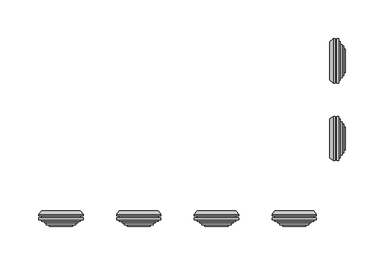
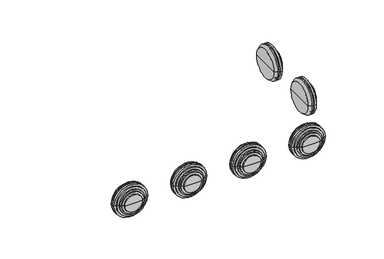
"""IFC4 building model written with IfcOpenShell, lengths in millimetres: cable carrier fitting geometry, КНС_КоробкаОтветвительнаяСКабельнымиВводами_12_IP55_DKC : с 12 кабельными вводами д.40мм, IP55, 380х300х120мм."""

from ifc_helpers import new_model, si_unit, frame, origin, place, context, project, spatial, polyline, circle_curve, source, transform, mapped, element, save
from ifc_brep_helpers import plane_surface, cylinder_surface, revolved_surface, advanced_brep


def cable_carrier_fitting_e0d42a9d(model_context):
    return source(origin(), model_context, "Body", "AdvancedBrep", [
        advanced_brep(
        [(202.5, 75.0, 57.0), (202.5, 25.0, 57.0), (202.5, 21.5, 57.0), (202.5, 78.5, 57.0), (204.5, 75.0, 57.0), (204.5, 25.0, 57.0), (204.5, 78.5, 57.0), (204.5, 21.5, 57.0), (207.5, 78.5, 57.0), (207.5, 21.5, 57.0), (207.5, 75.0, 57.0), (207.5, 25.0, 57.0), (209.5, 75.0, 57.0), (209.5, 25.0, 57.0), (209.5, 71.25, 57.0), (209.5, 28.75, 57.0), (211.5, 71.25, 57.0), (211.5, 28.75, 57.0), (211.5, 68.75, 57.0), (211.5, 31.25, 57.0), (213.5, 68.75, 57.0), (213.5, 31.25, 57.0), (213.5, 65.0, 57.0), (213.5, 35.0, 57.0), (215.5, 65.0, 57.0), (215.5, 35.0, 57.0), (215.5, 50.0, 57.0), (195.5, 75.0, 57.0), (195.5, 25.0, 57.0), (195.5, 50.0, 57.0), (200.2491137, 78.5, 57.0), (200.2491137, 21.5, 57.0)],
        [
            (0, 1, circle_curve(frame((202.5, 50.0, 57.0), z_axis=(-1.0, 0.0, 0.0), x_axis=(0.0, -1.0, 0.0)), 25.0)),
            (1, 2),
            (2, 3, circle_curve(frame((202.5, 50.0, 57.0), z_axis=(1.0, 0.0, 0.0), x_axis=(0.0, -1.0, 0.0)), 28.5)),
            (3, 0),
            (1, 0, circle_curve(frame((202.5, 50.0, 57.0), z_axis=(-1.0, 0.0, 0.0), x_axis=(0.0, -1.0, 0.0)), 25.0)),
            (3, 2, circle_curve(frame((202.5, 50.0, 57.0), z_axis=(1.0, 0.0, 0.0), x_axis=(0.0, -1.0, 0.0)), 28.5)),
            (4, 5, circle_curve(frame((204.5, 50.0, 57.0), z_axis=(-1.0, 0.0, 0.0), x_axis=(0.0, -1.0, 0.0)), 25.0)),
            (5, 1),
            (0, 4),
            (5, 4, circle_curve(frame((204.5, 50.0, 57.0), z_axis=(-1.0, 0.0, 0.0), x_axis=(0.0, -1.0, 0.0)), 25.0)),
            (6, 7, circle_curve(frame((204.5, 50.0, 57.0), z_axis=(-1.0, 0.0, 0.0), x_axis=(0.0, -1.0, 0.0)), 28.5)),
            (7, 5),
            (4, 6),
            (7, 6, circle_curve(frame((204.5, 50.0, 57.0), z_axis=(-1.0, 0.0, 0.0), x_axis=(0.0, -1.0, 0.0)), 28.5)),
            (8, 9, circle_curve(frame((207.5, 50.0, 57.0), z_axis=(-1.0, 0.0, 0.0), x_axis=(0.0, -1.0, 0.0)), 28.5)),
            (9, 7),
            (6, 8),
            (9, 8, circle_curve(frame((207.5, 50.0, 57.0), z_axis=(-1.0, 0.0, 0.0), x_axis=(0.0, -1.0, 0.0)), 28.5)),
            (10, 11, circle_curve(frame((207.5, 50.0, 57.0), z_axis=(-1.0, 0.0, 0.0), x_axis=(0.0, -1.0, 0.0)), 25.0)),
            (11, 9),
            (8, 10),
            (11, 10, circle_curve(frame((207.5, 50.0, 57.0), z_axis=(-1.0, 0.0, 0.0), x_axis=(0.0, -1.0, 0.0)), 25.0)),
            (12, 13, circle_curve(frame((209.5, 50.0, 57.0), z_axis=(-1.0, 0.0, 0.0), x_axis=(0.0, -1.0, 0.0)), 25.0)),
            (13, 11),
            (10, 12),
            (13, 12, circle_curve(frame((209.5, 50.0, 57.0), z_axis=(-1.0, 0.0, 0.0), x_axis=(0.0, -1.0, 0.0)), 25.0)),
            (14, 15, circle_curve(frame((209.5, 50.0, 57.0), z_axis=(-1.0, 0.0, 0.0), x_axis=(0.0, -1.0, 0.0)), 21.25)),
            (15, 13),
            (12, 14),
            (15, 14, circle_curve(frame((209.5, 50.0, 57.0), z_axis=(-1.0, 0.0, 0.0), x_axis=(0.0, -1.0, 0.0)), 21.25)),
            (16, 17, circle_curve(frame((211.5, 50.0, 57.0), z_axis=(-1.0, 0.0, 0.0), x_axis=(0.0, -1.0, 0.0)), 21.25)),
            (17, 15),
            (14, 16),
            (17, 16, circle_curve(frame((211.5, 50.0, 57.0), z_axis=(-1.0, 0.0, 0.0), x_axis=(0.0, -1.0, 0.0)), 21.25)),
            (18, 19, circle_curve(frame((211.5, 50.0, 57.0), z_axis=(-1.0, 0.0, 0.0), x_axis=(0.0, -1.0, 0.0)), 18.75)),
            (19, 17),
            (16, 18),
            (19, 18, circle_curve(frame((211.5, 50.0, 57.0), z_axis=(-1.0, 0.0, 0.0), x_axis=(0.0, -1.0, 0.0)), 18.75)),
            (20, 21, circle_curve(frame((213.5, 50.0, 57.0), z_axis=(-1.0, 0.0, 0.0), x_axis=(0.0, -1.0, 0.0)), 18.75)),
            (21, 19),
            (18, 20),
            (21, 20, circle_curve(frame((213.5, 50.0, 57.0), z_axis=(-1.0, 0.0, 0.0), x_axis=(0.0, -1.0, 0.0)), 18.75)),
            (22, 23, circle_curve(frame((213.5, 50.0, 57.0), z_axis=(-1.0, 0.0, 0.0), x_axis=(0.0, -1.0, 0.0)), 15.0)),
            (23, 21),
            (20, 22),
            (23, 22, circle_curve(frame((213.5, 50.0, 57.0), z_axis=(-1.0, 0.0, 0.0), x_axis=(0.0, -1.0, 0.0)), 15.0)),
            (24, 25, circle_curve(frame((215.5, 50.0, 57.0), z_axis=(-1.0, 0.0, 0.0), x_axis=(0.0, -1.0, 0.0)), 15.0)),
            (25, 23),
            (22, 24),
            (25, 24, circle_curve(frame((215.5, 50.0, 57.0), z_axis=(-1.0, 0.0, 0.0), x_axis=(0.0, -1.0, 0.0)), 15.0)),
            (26, 25),
            (24, 26),
            (27, 28, circle_curve(frame((195.5, 50.0, 57.0), z_axis=(-1.0, 0.0, 0.0), x_axis=(0.0, -1.0, 0.0)), 25.0)),
            (28, 29),
            (29, 27),
            (28, 27, circle_curve(frame((195.5, 50.0, 57.0), z_axis=(-1.0, 0.0, 0.0), x_axis=(0.0, -1.0, 0.0)), 25.0)),
            (30, 31, circle_curve(frame((200.2491137, 50.0, 57.0), z_axis=(-1.0, 0.0, 0.0), x_axis=(0.0, -1.0, 0.0)), 28.5)),
            (31, 28),
            (27, 30),
            (31, 30, circle_curve(frame((200.2491137, 50.0, 57.0), z_axis=(-1.0, 0.0, 0.0), x_axis=(0.0, -1.0, 0.0)), 28.5)),
            (2, 31),
            (30, 3),
        ],
        [
            plane_surface(frame((202.5, 50.0, 57.0), z_axis=(1.0, 0.0, 0.0), x_axis=(0.0, -1.0, 0.0))),
            cylinder_surface(frame((-1310.5, 50.0, 57.0), z_axis=(1.0, 0.0, 0.0), x_axis=(0.0, -1.0, 0.0)), 25.0),
            plane_surface(frame((204.5, 50.0, 57.0), z_axis=(-1.0, 0.0, 0.0), x_axis=(0.0, -1.0, 0.0))),
            cylinder_surface(frame((-1310.5, 50.0, 57.0), z_axis=(1.0, 0.0, 0.0), x_axis=(0.0, -1.0, 0.0)), 28.5),
            plane_surface(frame((207.5, 50.0, 57.0), z_axis=(1.0, 0.0, 0.0), x_axis=(0.0, -1.0, 0.0))),
            plane_surface(frame((209.5, 50.0, 57.0), z_axis=(1.0, 0.0, 0.0), x_axis=(0.0, -1.0, 0.0))),
            cylinder_surface(frame((-1310.5, 50.0, 57.0), z_axis=(1.0, 0.0, 0.0), x_axis=(0.0, -1.0, 0.0)), 21.25),
            plane_surface(frame((211.5, 50.0, 57.0), z_axis=(1.0, 0.0, 0.0), x_axis=(0.0, -1.0, 0.0))),
            cylinder_surface(frame((-1310.5, 50.0, 57.0), z_axis=(1.0, 0.0, 0.0), x_axis=(0.0, -1.0, 0.0)), 18.75),
            plane_surface(frame((213.5, 50.0, 57.0), z_axis=(1.0, 0.0, 0.0), x_axis=(0.0, -1.0, 0.0))),
            cylinder_surface(frame((-1310.5, 50.0, 57.0), z_axis=(1.0, 0.0, 0.0), x_axis=(0.0, -1.0, 0.0)), 15.0),
            plane_surface(frame((215.5, 50.0, 57.0), z_axis=(1.0, 0.0, 0.0), x_axis=(0.0, -1.0, 0.0))),
            plane_surface(frame((195.5, 50.0, 57.0), z_axis=(-1.0, 0.0, 0.0), x_axis=(0.0, -1.0, 0.0))),
            revolved_surface(polyline([(195.5, 25.0, 57.0), (200.2491137, 21.5, 57.0)]), (-1310.5, 50.0, 57.0), (1.0, 0.0, 0.0)),
        ],
        [
            (0, [[1, 2, 3, 4]]),
            (0, [[5, -4, 6, -2]]),
            (1, [[7, 8, -1, 9]]),
            (1, [[10, -9, -5, -8]]),
            (2, [[11, 12, -7, 13]]),
            (2, [[14, -13, -10, -12]]),
            (3, [[15, 16, -11, 17]]),
            (3, [[18, -17, -14, -16]]),
            (4, [[19, 20, -15, 21]]),
            (4, [[22, -21, -18, -20]]),
            (1, [[23, 24, -19, 25]]),
            (1, [[26, -25, -22, -24]]),
            (5, [[27, 28, -23, 29]]),
            (5, [[30, -29, -26, -28]]),
            (6, [[31, 32, -27, 33]]),
            (6, [[34, -33, -30, -32]]),
            (7, [[35, 36, -31, 37]]),
            (7, [[38, -37, -34, -36]]),
            (8, [[39, 40, -35, 41]]),
            (8, [[42, -41, -38, -40]]),
            (9, [[43, 44, -39, 45]]),
            (9, [[46, -45, -42, -44]]),
            (10, [[47, 48, -43, 49]]),
            (10, [[50, -49, -46, -48]]),
            (11, [[51, -47, 52]]),
            (11, [[-52, -50, -51]]),
            (12, [[53, 54, 55]]),
            (12, [[56, -55, -54]]),
            (13, [[57, 58, -53, 59]]),
            (13, [[60, -59, -56, -58]]),
            (3, [[-3, 61, -57, 62]]),
            (3, [[-6, -62, -60, -61]]),
        ],
    ),
        advanced_brep(
        [(202.5, -25.0, 57.0), (202.5, -75.0, 57.0), (202.5, -78.5, 57.0), (202.5, -21.5, 57.0), (204.5, -25.0, 57.0), (204.5, -75.0, 57.0), (204.5, -21.5, 57.0), (204.5, -78.5, 57.0), (207.5, -21.5, 57.0), (207.5, -78.5, 57.0), (207.5, -25.0, 57.0), (207.5, -75.0, 57.0), (209.5, -25.0, 57.0), (209.5, -75.0, 57.0), (209.5, -28.75, 57.0), (209.5, -71.25, 57.0), (211.5, -28.75, 57.0), (211.5, -71.25, 57.0), (211.5, -31.25, 57.0), (211.5, -68.75, 57.0), (213.5, -31.25, 57.0), (213.5, -68.75, 57.0), (213.5, -35.0, 57.0), (213.5, -65.0, 57.0), (215.5, -35.0, 57.0), (215.5, -65.0, 57.0), (215.5, -50.0, 57.0), (195.5, -25.0, 57.0), (195.5, -75.0, 57.0), (195.5, -50.0, 57.0), (200.2491137, -21.5, 57.0), (200.2491137, -78.5, 57.0)],
        [
            (0, 1, circle_curve(frame((202.5, -50.0, 57.0), z_axis=(-1.0, 0.0, 0.0), x_axis=(0.0, -1.0000000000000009, 0.0)), 25.0)),
            (1, 2),
            (2, 3, circle_curve(frame((202.5, -50.0, 57.0), z_axis=(1.0, 0.0, 0.0), x_axis=(0.0, -1.0000000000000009, 0.0)), 28.5)),
            (3, 0),
            (1, 0, circle_curve(frame((202.5, -50.0, 57.0), z_axis=(-1.0, 0.0, 0.0), x_axis=(0.0, -1.0000000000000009, 0.0)), 25.0)),
            (3, 2, circle_curve(frame((202.5, -50.0, 57.0), z_axis=(1.0, 0.0, 0.0), x_axis=(0.0, -1.0000000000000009, 0.0)), 28.5)),
            (4, 5, circle_curve(frame((204.5, -50.0, 57.0), z_axis=(-1.0, 0.0, 0.0), x_axis=(0.0, -1.0000000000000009, 0.0)), 25.0)),
            (5, 1),
            (0, 4),
            (5, 4, circle_curve(frame((204.5, -50.0, 57.0), z_axis=(-1.0, 0.0, 0.0), x_axis=(0.0, -1.0000000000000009, 0.0)), 25.0)),
            (6, 7, circle_curve(frame((204.5, -50.0, 57.0), z_axis=(-1.0, 0.0, 0.0), x_axis=(0.0, -1.0000000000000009, 0.0)), 28.5)),
            (7, 5),
            (4, 6),
            (7, 6, circle_curve(frame((204.5, -50.0, 57.0), z_axis=(-1.0, 0.0, 0.0), x_axis=(0.0, -1.0000000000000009, 0.0)), 28.5)),
            (8, 9, circle_curve(frame((207.5, -50.0, 57.0), z_axis=(-1.0, 0.0, 0.0), x_axis=(0.0, -1.0000000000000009, 0.0)), 28.5)),
            (9, 7),
            (6, 8),
            (9, 8, circle_curve(frame((207.5, -50.0, 57.0), z_axis=(-1.0, 0.0, 0.0), x_axis=(0.0, -1.0000000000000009, 0.0)), 28.5)),
            (10, 11, circle_curve(frame((207.5, -50.0, 57.0), z_axis=(-1.0, 0.0, 0.0), x_axis=(0.0, -1.0000000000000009, 0.0)), 25.0)),
            (11, 9),
            (8, 10),
            (11, 10, circle_curve(frame((207.5, -50.0, 57.0), z_axis=(-1.0, 0.0, 0.0), x_axis=(0.0, -1.0000000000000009, 0.0)), 25.0)),
            (12, 13, circle_curve(frame((209.5, -50.0, 57.0), z_axis=(-1.0, 0.0, 0.0), x_axis=(0.0, -1.0000000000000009, 0.0)), 25.0)),
            (13, 11),
            (10, 12),
            (13, 12, circle_curve(frame((209.5, -50.0, 57.0), z_axis=(-1.0, 0.0, 0.0), x_axis=(0.0, -1.0000000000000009, 0.0)), 25.0)),
            (14, 15, circle_curve(frame((209.5, -50.0, 57.0), z_axis=(-1.0, 0.0, 0.0), x_axis=(0.0, -1.0000000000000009, 0.0)), 21.25)),
            (15, 13),
            (12, 14),
            (15, 14, circle_curve(frame((209.5, -50.0, 57.0), z_axis=(-1.0, 0.0, 0.0), x_axis=(0.0, -1.0000000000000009, 0.0)), 21.25)),
            (16, 17, circle_curve(frame((211.5, -50.0, 57.0), z_axis=(-1.0, 0.0, 0.0), x_axis=(0.0, -1.0000000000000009, 0.0)), 21.25)),
            (17, 15),
            (14, 16),
            (17, 16, circle_curve(frame((211.5, -50.0, 57.0), z_axis=(-1.0, 0.0, 0.0), x_axis=(0.0, -1.0000000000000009, 0.0)), 21.25)),
            (18, 19, circle_curve(frame((211.5, -50.0, 57.0), z_axis=(-1.0, 0.0, 0.0), x_axis=(0.0, -1.0000000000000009, 0.0)), 18.75)),
            (19, 17),
            (16, 18),
            (19, 18, circle_curve(frame((211.5, -50.0, 57.0), z_axis=(-1.0, 0.0, 0.0), x_axis=(0.0, -1.0000000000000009, 0.0)), 18.75)),
            (20, 21, circle_curve(frame((213.5, -50.0, 57.0), z_axis=(-1.0, 0.0, 0.0), x_axis=(0.0, -1.0000000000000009, 0.0)), 18.75)),
            (21, 19),
            (18, 20),
            (21, 20, circle_curve(frame((213.5, -50.0, 57.0), z_axis=(-1.0, 0.0, 0.0), x_axis=(0.0, -1.0000000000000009, 0.0)), 18.75)),
            (22, 23, circle_curve(frame((213.5, -50.0, 57.0), z_axis=(-1.0, 0.0, 0.0), x_axis=(0.0, -1.0000000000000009, 0.0)), 15.0)),
            (23, 21),
            (20, 22),
            (23, 22, circle_curve(frame((213.5, -50.0, 57.0), z_axis=(-1.0, 0.0, 0.0), x_axis=(0.0, -1.0000000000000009, 0.0)), 15.0)),
            (24, 25, circle_curve(frame((215.5, -50.0, 57.0), z_axis=(-1.0, 0.0, 0.0), x_axis=(0.0, -1.0000000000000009, 0.0)), 15.0)),
            (25, 23),
            (22, 24),
            (25, 24, circle_curve(frame((215.5, -50.0, 57.0), z_axis=(-1.0, 0.0, 0.0), x_axis=(0.0, -1.0000000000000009, 0.0)), 15.0)),
            (26, 25),
            (24, 26),
            (27, 28, circle_curve(frame((195.5, -50.0, 57.0), z_axis=(-1.0, 0.0, 0.0), x_axis=(0.0, -1.0000000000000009, 0.0)), 25.0)),
            (28, 29),
            (29, 27),
            (28, 27, circle_curve(frame((195.5, -50.0, 57.0), z_axis=(-1.0, 0.0, 0.0), x_axis=(0.0, -1.0000000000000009, 0.0)), 25.0)),
            (30, 31, circle_curve(frame((200.2491137, -50.0, 57.0), z_axis=(-1.0, 0.0, 0.0), x_axis=(0.0, -1.0000000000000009, 0.0)), 28.5)),
            (31, 28),
            (27, 30),
            (31, 30, circle_curve(frame((200.2491137, -50.0, 57.0), z_axis=(-1.0, 0.0, 0.0), x_axis=(0.0, -1.0000000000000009, 0.0)), 28.5)),
            (2, 31),
            (30, 3),
        ],
        [
            plane_surface(frame((202.5, -50.0, 57.0), z_axis=(1.0, 0.0, 0.0), x_axis=(0.0, -1.0, 0.0))),
            cylinder_surface(frame((-1310.5, -50.0, 57.0), z_axis=(1.0000000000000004, 0.0, 0.0), x_axis=(0.0, -1.0000000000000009, 0.0)), 25.0),
            plane_surface(frame((204.5, -50.0, 57.0), z_axis=(-1.0, 0.0, 0.0), x_axis=(0.0, -1.0, 0.0))),
            cylinder_surface(frame((-1310.5, -50.0, 57.0), z_axis=(1.0000000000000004, 0.0, 0.0), x_axis=(0.0, -1.0000000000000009, 0.0)), 28.5),
            plane_surface(frame((207.5, -50.0, 57.0), z_axis=(1.0, 0.0, 0.0), x_axis=(0.0, -1.0, 0.0))),
            plane_surface(frame((209.5, -50.0, 57.0), z_axis=(1.0, 0.0, 0.0), x_axis=(0.0, -1.0, 0.0))),
            cylinder_surface(frame((-1310.5, -50.0, 57.0), z_axis=(1.0000000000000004, 0.0, 0.0), x_axis=(0.0, -1.0000000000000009, 0.0)), 21.25),
            plane_surface(frame((211.5, -50.0, 57.0), z_axis=(1.0, 0.0, 0.0), x_axis=(0.0, -1.0, 0.0))),
            cylinder_surface(frame((-1310.5, -50.0, 57.0), z_axis=(1.0000000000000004, 0.0, 0.0), x_axis=(0.0, -1.0000000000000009, 0.0)), 18.75),
            plane_surface(frame((213.5, -50.0, 57.0), z_axis=(1.0, 0.0, 0.0), x_axis=(0.0, -1.0, 0.0))),
            cylinder_surface(frame((-1310.5, -50.0, 57.0), z_axis=(1.0000000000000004, 0.0, 0.0), x_axis=(0.0, -1.0000000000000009, 0.0)), 15.0),
            plane_surface(frame((215.5, -50.0, 57.0), z_axis=(1.0, 0.0, 0.0), x_axis=(0.0, -1.0, 0.0))),
            plane_surface(frame((195.5, -50.0, 57.0), z_axis=(-1.0, 0.0, 0.0), x_axis=(0.0, -1.0, 0.0))),
            revolved_surface(polyline([(195.5, -75.0, 57.0), (200.2491137, -78.5, 57.0)]), (-1310.5, -50.0, 57.0), (1.0000000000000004, 0.0, 0.0)),
        ],
        [
            (0, [[1, 2, 3, 4]]),
            (0, [[5, -4, 6, -2]]),
            (1, [[7, 8, -1, 9]]),
            (1, [[10, -9, -5, -8]]),
            (2, [[11, 12, -7, 13]]),
            (2, [[14, -13, -10, -12]]),
            (3, [[15, 16, -11, 17]]),
            (3, [[18, -17, -14, -16]]),
            (4, [[19, 20, -15, 21]]),
            (4, [[22, -21, -18, -20]]),
            (1, [[23, 24, -19, 25]]),
            (1, [[26, -25, -22, -24]]),
            (5, [[27, 28, -23, 29]]),
            (5, [[30, -29, -26, -28]]),
            (6, [[31, 32, -27, 33]]),
            (6, [[34, -33, -30, -32]]),
            (7, [[35, 36, -31, 37]]),
            (7, [[38, -37, -34, -36]]),
            (8, [[39, 40, -35, 41]]),
            (8, [[42, -41, -38, -40]]),
            (9, [[43, 44, -39, 45]]),
            (9, [[46, -45, -42, -44]]),
            (10, [[47, 48, -43, 49]]),
            (10, [[50, -49, -46, -48]]),
            (11, [[51, -47, 52]]),
            (11, [[-52, -50, -51]]),
            (12, [[53, 54, 55]]),
            (12, [[56, -55, -54]]),
            (13, [[57, 58, -53, 59]]),
            (13, [[60, -59, -56, -58]]),
            (3, [[-3, 61, -57, 62]]),
            (3, [[-6, -62, -60, -61]]),
        ],
    ),
        advanced_brep(
        [(175.0, -150.0, 57.0), (125.0, -150.0, 57.0), (121.5, -150.0, 57.0), (178.5, -150.0, 57.0), (175.0, -152.0, 57.0), (125.0, -152.0, 57.0), (178.5, -152.0, 57.0), (121.5, -152.0, 57.0), (178.5, -155.0, 57.0), (121.5, -155.0, 57.0), (175.0, -155.0, 57.0), (125.0, -155.0, 57.0), (175.0, -157.0, 57.0), (125.0, -157.0, 57.0), (171.25, -157.0, 57.0), (128.75, -157.0, 57.0), (171.25, -159.0, 57.0), (128.75, -159.0, 57.0), (168.75, -159.0, 57.0), (131.25, -159.0, 57.0), (168.75, -161.0, 57.0), (131.25, -161.0, 57.0), (165.0, -161.0, 57.0), (135.0, -161.0, 57.0), (165.0, -163.0, 57.0), (135.0, -163.0, 57.0), (150.0, -163.0, 57.0), (175.0, -143.0, 57.0), (125.0, -143.0, 57.0), (150.0, -143.0, 57.0), (178.5, -147.7491137, 57.0), (121.5, -147.7491137, 57.0)],
        [
            (0, 1, circle_curve(frame((150.0, -150.0, 57.0), z_axis=(0.0, 1.0, 0.0), x_axis=(-1.0000000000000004, 0.0, 0.0)), 25.0)),
            (1, 2),
            (2, 3, circle_curve(frame((150.0, -150.0, 57.0), z_axis=(0.0, -1.0, 0.0), x_axis=(-1.0000000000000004, 0.0, 0.0)), 28.5)),
            (3, 0),
            (1, 0, circle_curve(frame((150.0, -150.0, 57.0), z_axis=(0.0, 1.0, 0.0), x_axis=(-1.0000000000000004, 0.0, 0.0)), 25.0)),
            (3, 2, circle_curve(frame((150.0, -150.0, 57.0), z_axis=(0.0, -1.0, 0.0), x_axis=(-1.0000000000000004, 0.0, 0.0)), 28.5)),
            (4, 5, circle_curve(frame((150.0, -152.0, 57.0), z_axis=(0.0, 1.0, 0.0), x_axis=(-1.0000000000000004, 0.0, 0.0)), 25.0)),
            (5, 1),
            (0, 4),
            (5, 4, circle_curve(frame((150.0, -152.0, 57.0), z_axis=(0.0, 1.0, 0.0), x_axis=(-1.0000000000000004, 0.0, 0.0)), 25.0)),
            (6, 7, circle_curve(frame((150.0, -152.0, 57.0), z_axis=(0.0, 1.0, 0.0), x_axis=(-1.0000000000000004, 0.0, 0.0)), 28.5)),
            (7, 5),
            (4, 6),
            (7, 6, circle_curve(frame((150.0, -152.0, 57.0), z_axis=(0.0, 1.0, 0.0), x_axis=(-1.0000000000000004, 0.0, 0.0)), 28.5)),
            (8, 9, circle_curve(frame((150.0, -155.0, 57.0), z_axis=(0.0, 1.0, 0.0), x_axis=(-1.0000000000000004, 0.0, 0.0)), 28.5)),
            (9, 7),
            (6, 8),
            (9, 8, circle_curve(frame((150.0, -155.0, 57.0), z_axis=(0.0, 1.0, 0.0), x_axis=(-1.0000000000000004, 0.0, 0.0)), 28.5)),
            (10, 11, circle_curve(frame((150.0, -155.0, 57.0), z_axis=(0.0, 1.0, 0.0), x_axis=(-1.0000000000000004, 0.0, 0.0)), 25.0)),
            (11, 9),
            (8, 10),
            (11, 10, circle_curve(frame((150.0, -155.0, 57.0), z_axis=(0.0, 1.0, 0.0), x_axis=(-1.0000000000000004, 0.0, 0.0)), 25.0)),
            (12, 13, circle_curve(frame((150.0, -157.0, 57.0), z_axis=(0.0, 1.0, 0.0), x_axis=(-1.0000000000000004, 0.0, 0.0)), 25.0)),
            (13, 11),
            (10, 12),
            (13, 12, circle_curve(frame((150.0, -157.0, 57.0), z_axis=(0.0, 1.0, 0.0), x_axis=(-1.0000000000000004, 0.0, 0.0)), 25.0)),
            (14, 15, circle_curve(frame((150.0, -157.0, 57.0), z_axis=(0.0, 1.0, 0.0), x_axis=(-1.0000000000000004, 0.0, 0.0)), 21.25)),
            (15, 13),
            (12, 14),
            (15, 14, circle_curve(frame((150.0, -157.0, 57.0), z_axis=(0.0, 1.0, 0.0), x_axis=(-1.0000000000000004, 0.0, 0.0)), 21.25)),
            (16, 17, circle_curve(frame((150.0, -159.0, 57.0), z_axis=(0.0, 1.0, 0.0), x_axis=(-1.0000000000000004, 0.0, 0.0)), 21.25)),
            (17, 15),
            (14, 16),
            (17, 16, circle_curve(frame((150.0, -159.0, 57.0), z_axis=(0.0, 1.0, 0.0), x_axis=(-1.0000000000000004, 0.0, 0.0)), 21.25)),
            (18, 19, circle_curve(frame((150.0, -159.0, 57.0), z_axis=(0.0, 1.0, 0.0), x_axis=(-1.0000000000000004, 0.0, 0.0)), 18.75)),
            (19, 17),
            (16, 18),
            (19, 18, circle_curve(frame((150.0, -159.0, 57.0), z_axis=(0.0, 1.0, 0.0), x_axis=(-1.0000000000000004, 0.0, 0.0)), 18.75)),
            (20, 21, circle_curve(frame((150.0, -161.0, 57.0), z_axis=(0.0, 1.0, 0.0), x_axis=(-1.0000000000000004, 0.0, 0.0)), 18.75)),
            (21, 19),
            (18, 20),
            (21, 20, circle_curve(frame((150.0, -161.0, 57.0), z_axis=(0.0, 1.0, 0.0), x_axis=(-1.0000000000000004, 0.0, 0.0)), 18.75)),
            (22, 23, circle_curve(frame((150.0, -161.0, 57.0), z_axis=(0.0, 1.0, 0.0), x_axis=(-1.0000000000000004, 0.0, 0.0)), 15.0)),
            (23, 21),
            (20, 22),
            (23, 22, circle_curve(frame((150.0, -161.0, 57.0), z_axis=(0.0, 1.0, 0.0), x_axis=(-1.0000000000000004, 0.0, 0.0)), 15.0)),
            (24, 25, circle_curve(frame((150.0, -163.0, 57.0), z_axis=(0.0, 1.0, 0.0), x_axis=(-1.0000000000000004, 0.0, 0.0)), 15.0)),
            (25, 23),
            (22, 24),
            (25, 24, circle_curve(frame((150.0, -163.0, 57.0), z_axis=(0.0, 1.0, 0.0), x_axis=(-1.0000000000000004, 0.0, 0.0)), 15.0)),
            (26, 25),
            (24, 26),
            (27, 28, circle_curve(frame((150.0, -143.0, 57.0), z_axis=(0.0, 1.0, 0.0), x_axis=(-1.0000000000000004, 0.0, 0.0)), 25.0)),
            (28, 29),
            (29, 27),
            (28, 27, circle_curve(frame((150.0, -143.0, 57.0), z_axis=(0.0, 1.0, 0.0), x_axis=(-1.0000000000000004, 0.0, 0.0)), 25.0)),
            (30, 31, circle_curve(frame((150.0, -147.7491137, 57.0), z_axis=(0.0, 1.0, 0.0), x_axis=(-1.0000000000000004, 0.0, 0.0)), 28.5)),
            (31, 28),
            (27, 30),
            (31, 30, circle_curve(frame((150.0, -147.7491137, 57.0), z_axis=(0.0, 1.0, 0.0), x_axis=(-1.0000000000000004, 0.0, 0.0)), 28.5)),
            (2, 31),
            (30, 3),
        ],
        [
            plane_surface(frame((150.0, -150.0, 57.0), z_axis=(0.0, -1.0, 0.0), x_axis=(-1.0, 0.0, 0.0))),
            cylinder_surface(frame((150.0, 1363.0, 57.0), z_axis=(0.0, -1.0000000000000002, 0.0), x_axis=(-1.0000000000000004, 0.0, 0.0)), 25.0),
            plane_surface(frame((150.0, -152.0, 57.0), z_axis=(0.0, 1.0, 0.0), x_axis=(-1.0, 0.0, 0.0))),
            cylinder_surface(frame((150.0, 1363.0, 57.0), z_axis=(0.0, -1.0000000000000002, 0.0), x_axis=(-1.0000000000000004, 0.0, 0.0)), 28.5),
            plane_surface(frame((150.0, -155.0, 57.0), z_axis=(0.0, -1.0, 0.0), x_axis=(-1.0, 0.0, 0.0))),
            plane_surface(frame((150.0, -157.0, 57.0), z_axis=(0.0, -1.0, 0.0), x_axis=(-1.0, 0.0, 0.0))),
            cylinder_surface(frame((150.0, 1363.0, 57.0), z_axis=(0.0, -1.0000000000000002, 0.0), x_axis=(-1.0000000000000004, 0.0, 0.0)), 21.25),
            plane_surface(frame((150.0, -159.0, 57.0), z_axis=(0.0, -1.0, 0.0), x_axis=(-1.0, 0.0, 0.0))),
            cylinder_surface(frame((150.0, 1363.0, 57.0), z_axis=(0.0, -1.0000000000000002, 0.0), x_axis=(-1.0000000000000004, 0.0, 0.0)), 18.75),
            plane_surface(frame((150.0, -161.0, 57.0), z_axis=(0.0, -1.0, 0.0), x_axis=(-1.0, 0.0, 0.0))),
            cylinder_surface(frame((150.0, 1363.0, 57.0), z_axis=(0.0, -1.0000000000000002, 0.0), x_axis=(-1.0000000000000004, 0.0, 0.0)), 15.0),
            plane_surface(frame((150.0, -163.0, 57.0), z_axis=(0.0, -1.0, 0.0), x_axis=(-1.0, 0.0, 0.0))),
            plane_surface(frame((150.0, -143.0, 57.0), z_axis=(0.0, 1.0, 0.0), x_axis=(-1.0, 0.0, 0.0))),
            revolved_surface(polyline([(125.0, -143.0, 57.0), (121.5, -147.7491137, 57.0)]), (150.0, 1363.0, 57.0), (0.0, -1.0000000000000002, 0.0)),
        ],
        [
            (0, [[1, 2, 3, 4]]),
            (0, [[5, -4, 6, -2]]),
            (1, [[7, 8, -1, 9]]),
            (1, [[10, -9, -5, -8]]),
            (2, [[11, 12, -7, 13]]),
            (2, [[14, -13, -10, -12]]),
            (3, [[15, 16, -11, 17]]),
            (3, [[18, -17, -14, -16]]),
            (4, [[19, 20, -15, 21]]),
            (4, [[22, -21, -18, -20]]),
            (1, [[23, 24, -19, 25]]),
            (1, [[26, -25, -22, -24]]),
            (5, [[27, 28, -23, 29]]),
            (5, [[30, -29, -26, -28]]),
            (6, [[31, 32, -27, 33]]),
            (6, [[34, -33, -30, -32]]),
            (7, [[35, 36, -31, 37]]),
            (7, [[38, -37, -34, -36]]),
            (8, [[39, 40, -35, 41]]),
            (8, [[42, -41, -38, -40]]),
            (9, [[43, 44, -39, 45]]),
            (9, [[46, -45, -42, -44]]),
            (10, [[47, 48, -43, 49]]),
            (10, [[50, -49, -46, -48]]),
            (11, [[51, -47, 52]]),
            (11, [[-52, -50, -51]]),
            (12, [[53, 54, 55]]),
            (12, [[56, -55, -54]]),
            (13, [[57, 58, -53, 59]]),
            (13, [[60, -59, -56, -58]]),
            (3, [[-3, 61, -57, 62]]),
            (3, [[-6, -62, -60, -61]]),
        ],
    ),
        advanced_brep(
        [(75.0, -150.0, 57.0), (25.0, -150.0, 57.0), (21.5, -150.0, 57.0), (78.5, -150.0, 57.0), (75.0, -152.0, 57.0), (25.0, -152.0, 57.0), (78.5, -152.0, 57.0), (21.5, -152.0, 57.0), (78.5, -155.0, 57.0), (21.5, -155.0, 57.0), (75.0, -155.0, 57.0), (25.0, -155.0, 57.0), (75.0, -157.0, 57.0), (25.0, -157.0, 57.0), (71.25, -157.0, 57.0), (28.75, -157.0, 57.0), (71.25, -159.0, 57.0), (28.75, -159.0, 57.0), (68.75, -159.0, 57.0), (31.25, -159.0, 57.0), (68.75, -161.0, 57.0), (31.25, -161.0, 57.0), (65.0, -161.0, 57.0), (35.0, -161.0, 57.0), (65.0, -163.0, 57.0), (35.0, -163.0, 57.0), (50.0, -163.0, 57.0), (75.0, -143.0, 57.0), (25.0, -143.0, 57.0), (50.0, -143.0, 57.0), (78.5, -147.7491137, 57.0), (21.5, -147.7491137, 57.0)],
        [
            (0, 1, circle_curve(frame((50.0, -150.0, 57.0), z_axis=(0.0, 1.0, 0.0), x_axis=(-1.0000000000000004, 0.0, 0.0)), 25.0)),
            (1, 2),
            (2, 3, circle_curve(frame((50.0, -150.0, 57.0), z_axis=(0.0, -1.0, 0.0), x_axis=(-1.0000000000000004, 0.0, 0.0)), 28.5)),
            (3, 0),
            (1, 0, circle_curve(frame((50.0, -150.0, 57.0), z_axis=(0.0, 1.0, 0.0), x_axis=(-1.0000000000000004, 0.0, 0.0)), 25.0)),
            (3, 2, circle_curve(frame((50.0, -150.0, 57.0), z_axis=(0.0, -1.0, 0.0), x_axis=(-1.0000000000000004, 0.0, 0.0)), 28.5)),
            (4, 5, circle_curve(frame((50.0, -152.0, 57.0), z_axis=(0.0, 1.0, 0.0), x_axis=(-1.0000000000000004, 0.0, 0.0)), 25.0)),
            (5, 1),
            (0, 4),
            (5, 4, circle_curve(frame((50.0, -152.0, 57.0), z_axis=(0.0, 1.0, 0.0), x_axis=(-1.0000000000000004, 0.0, 0.0)), 25.0)),
            (6, 7, circle_curve(frame((50.0, -152.0, 57.0), z_axis=(0.0, 1.0, 0.0), x_axis=(-1.0000000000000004, 0.0, 0.0)), 28.5)),
            (7, 5),
            (4, 6),
            (7, 6, circle_curve(frame((50.0, -152.0, 57.0), z_axis=(0.0, 1.0, 0.0), x_axis=(-1.0000000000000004, 0.0, 0.0)), 28.5)),
            (8, 9, circle_curve(frame((50.0, -155.0, 57.0), z_axis=(0.0, 1.0, 0.0), x_axis=(-1.0000000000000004, 0.0, 0.0)), 28.5)),
            (9, 7),
            (6, 8),
            (9, 8, circle_curve(frame((50.0, -155.0, 57.0), z_axis=(0.0, 1.0, 0.0), x_axis=(-1.0000000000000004, 0.0, 0.0)), 28.5)),
            (10, 11, circle_curve(frame((50.0, -155.0, 57.0), z_axis=(0.0, 1.0, 0.0), x_axis=(-1.0000000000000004, 0.0, 0.0)), 25.0)),
            (11, 9),
            (8, 10),
            (11, 10, circle_curve(frame((50.0, -155.0, 57.0), z_axis=(0.0, 1.0, 0.0), x_axis=(-1.0000000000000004, 0.0, 0.0)), 25.0)),
            (12, 13, circle_curve(frame((50.0, -157.0, 57.0), z_axis=(0.0, 1.0, 0.0), x_axis=(-1.0000000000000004, 0.0, 0.0)), 25.0)),
            (13, 11),
            (10, 12),
            (13, 12, circle_curve(frame((50.0, -157.0, 57.0), z_axis=(0.0, 1.0, 0.0), x_axis=(-1.0000000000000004, 0.0, 0.0)), 25.0)),
            (14, 15, circle_curve(frame((50.0, -157.0, 57.0), z_axis=(0.0, 1.0, 0.0), x_axis=(-1.0000000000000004, 0.0, 0.0)), 21.25)),
            (15, 13),
            (12, 14),
            (15, 14, circle_curve(frame((50.0, -157.0, 57.0), z_axis=(0.0, 1.0, 0.0), x_axis=(-1.0000000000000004, 0.0, 0.0)), 21.25)),
            (16, 17, circle_curve(frame((50.0, -159.0, 57.0), z_axis=(0.0, 1.0, 0.0), x_axis=(-1.0000000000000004, 0.0, 0.0)), 21.25)),
            (17, 15),
            (14, 16),
            (17, 16, circle_curve(frame((50.0, -159.0, 57.0), z_axis=(0.0, 1.0, 0.0), x_axis=(-1.0000000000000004, 0.0, 0.0)), 21.25)),
            (18, 19, circle_curve(frame((50.0, -159.0, 57.0), z_axis=(0.0, 1.0, 0.0), x_axis=(-1.0000000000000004, 0.0, 0.0)), 18.75)),
            (19, 17),
            (16, 18),
            (19, 18, circle_curve(frame((50.0, -159.0, 57.0), z_axis=(0.0, 1.0, 0.0), x_axis=(-1.0000000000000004, 0.0, 0.0)), 18.75)),
            (20, 21, circle_curve(frame((50.0, -161.0, 57.0), z_axis=(0.0, 1.0, 0.0), x_axis=(-1.0000000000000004, 0.0, 0.0)), 18.75)),
            (21, 19),
            (18, 20),
            (21, 20, circle_curve(frame((50.0, -161.0, 57.0), z_axis=(0.0, 1.0, 0.0), x_axis=(-1.0000000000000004, 0.0, 0.0)), 18.75)),
            (22, 23, circle_curve(frame((50.0, -161.0, 57.0), z_axis=(0.0, 1.0, 0.0), x_axis=(-1.0000000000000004, 0.0, 0.0)), 15.0)),
            (23, 21),
            (20, 22),
            (23, 22, circle_curve(frame((50.0, -161.0, 57.0), z_axis=(0.0, 1.0, 0.0), x_axis=(-1.0000000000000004, 0.0, 0.0)), 15.0)),
            (24, 25, circle_curve(frame((50.0, -163.0, 57.0), z_axis=(0.0, 1.0, 0.0), x_axis=(-1.0000000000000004, 0.0, 0.0)), 15.0)),
            (25, 23),
            (22, 24),
            (25, 24, circle_curve(frame((50.0, -163.0, 57.0), z_axis=(0.0, 1.0, 0.0), x_axis=(-1.0000000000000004, 0.0, 0.0)), 15.0)),
            (26, 25),
            (24, 26),
            (27, 28, circle_curve(frame((50.0, -143.0, 57.0), z_axis=(0.0, 1.0, 0.0), x_axis=(-1.0000000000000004, 0.0, 0.0)), 25.0)),
            (28, 29),
            (29, 27),
            (28, 27, circle_curve(frame((50.0, -143.0, 57.0), z_axis=(0.0, 1.0, 0.0), x_axis=(-1.0000000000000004, 0.0, 0.0)), 25.0)),
            (30, 31, circle_curve(frame((50.0, -147.7491137, 57.0), z_axis=(0.0, 1.0, 0.0), x_axis=(-1.0000000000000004, 0.0, 0.0)), 28.5)),
            (31, 28),
            (27, 30),
            (31, 30, circle_curve(frame((50.0, -147.7491137, 57.0), z_axis=(0.0, 1.0, 0.0), x_axis=(-1.0000000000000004, 0.0, 0.0)), 28.5)),
            (2, 31),
            (30, 3),
        ],
        [
            plane_surface(frame((50.0, -150.0, 57.0), z_axis=(0.0, -1.0, 0.0), x_axis=(-1.0, 0.0, 0.0))),
            cylinder_surface(frame((50.0, 1363.0, 57.0), z_axis=(0.0, -1.0000000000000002, 0.0), x_axis=(-1.0000000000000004, 0.0, 0.0)), 25.0),
            plane_surface(frame((50.0, -152.0, 57.0), z_axis=(0.0, 1.0, 0.0), x_axis=(-1.0, 0.0, 0.0))),
            cylinder_surface(frame((50.0, 1363.0, 57.0), z_axis=(0.0, -1.0000000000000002, 0.0), x_axis=(-1.0000000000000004, 0.0, 0.0)), 28.5),
            plane_surface(frame((50.0, -155.0, 57.0), z_axis=(0.0, -1.0, 0.0), x_axis=(-1.0, 0.0, 0.0))),
            plane_surface(frame((50.0, -157.0, 57.0), z_axis=(0.0, -1.0, 0.0), x_axis=(-1.0, 0.0, 0.0))),
            cylinder_surface(frame((50.0, 1363.0, 57.0), z_axis=(0.0, -1.0000000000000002, 0.0), x_axis=(-1.0000000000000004, 0.0, 0.0)), 21.25),
            plane_surface(frame((50.0, -159.0, 57.0), z_axis=(0.0, -1.0, 0.0), x_axis=(-1.0, 0.0, 0.0))),
            cylinder_surface(frame((50.0, 1363.0, 57.0), z_axis=(0.0, -1.0000000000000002, 0.0), x_axis=(-1.0000000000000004, 0.0, 0.0)), 18.75),
            plane_surface(frame((50.0, -161.0, 57.0), z_axis=(0.0, -1.0, 0.0), x_axis=(-1.0, 0.0, 0.0))),
            cylinder_surface(frame((50.0, 1363.0, 57.0), z_axis=(0.0, -1.0000000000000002, 0.0), x_axis=(-1.0000000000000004, 0.0, 0.0)), 15.0),
            plane_surface(frame((50.0, -163.0, 57.0), z_axis=(0.0, -1.0, 0.0), x_axis=(-1.0, 0.0, 0.0))),
            plane_surface(frame((50.0, -143.0, 57.0), z_axis=(0.0, 1.0, 0.0), x_axis=(-1.0, 0.0, 0.0))),
            revolved_surface(polyline([(25.0, -143.0, 57.0), (21.5, -147.7491137, 57.0)]), (50.0, 1363.0, 57.0), (0.0, -1.0000000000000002, 0.0)),
        ],
        [
            (0, [[1, 2, 3, 4]]),
            (0, [[5, -4, 6, -2]]),
            (1, [[7, 8, -1, 9]]),
            (1, [[10, -9, -5, -8]]),
            (2, [[11, 12, -7, 13]]),
            (2, [[14, -13, -10, -12]]),
            (3, [[15, 16, -11, 17]]),
            (3, [[18, -17, -14, -16]]),
            (4, [[19, 20, -15, 21]]),
            (4, [[22, -21, -18, -20]]),
            (1, [[23, 24, -19, 25]]),
            (1, [[26, -25, -22, -24]]),
            (5, [[27, 28, -23, 29]]),
            (5, [[30, -29, -26, -28]]),
            (6, [[31, 32, -27, 33]]),
            (6, [[34, -33, -30, -32]]),
            (7, [[35, 36, -31, 37]]),
            (7, [[38, -37, -34, -36]]),
            (8, [[39, 40, -35, 41]]),
            (8, [[42, -41, -38, -40]]),
            (9, [[43, 44, -39, 45]]),
            (9, [[46, -45, -42, -44]]),
            (10, [[47, 48, -43, 49]]),
            (10, [[50, -49, -46, -48]]),
            (11, [[51, -47, 52]]),
            (11, [[-52, -50, -51]]),
            (12, [[53, 54, 55]]),
            (12, [[56, -55, -54]]),
            (13, [[57, 58, -53, 59]]),
            (13, [[60, -59, -56, -58]]),
            (3, [[-3, 61, -57, 62]]),
            (3, [[-6, -62, -60, -61]]),
        ],
    ),
        advanced_brep(
        [(-25.0, -150.0, 57.0), (-75.0, -150.0, 57.0), (-78.5, -150.0, 57.0), (-21.5, -150.0, 57.0), (-25.0, -152.0, 57.0), (-75.0, -152.0, 57.0), (-21.5, -152.0, 57.0), (-78.5, -152.0, 57.0), (-21.5, -155.0, 57.0), (-78.5, -155.0, 57.0), (-25.0, -155.0, 57.0), (-75.0, -155.0, 57.0), (-25.0, -157.0, 57.0), (-75.0, -157.0, 57.0), (-28.75, -157.0, 57.0), (-71.25, -157.0, 57.0), (-28.75, -159.0, 57.0), (-71.25, -159.0, 57.0), (-31.25, -159.0, 57.0), (-68.75, -159.0, 57.0), (-31.25, -161.0, 57.0), (-68.75, -161.0, 57.0), (-35.0, -161.0, 57.0), (-65.0, -161.0, 57.0), (-35.0, -163.0, 57.0), (-65.0, -163.0, 57.0), (-50.0, -163.0, 57.0), (-25.0, -143.0, 57.0), (-75.0, -143.0, 57.0), (-50.0, -143.0, 57.0), (-21.5, -147.7491137, 57.0), (-78.5, -147.7491137, 57.0)],
        [
            (0, 1, circle_curve(frame((-50.0, -150.0, 57.0), z_axis=(0.0, 1.0, 0.0), x_axis=(-1.0000000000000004, 0.0, 0.0)), 25.0)),
            (1, 2),
            (2, 3, circle_curve(frame((-50.0, -150.0, 57.0), z_axis=(0.0, -1.0, 0.0), x_axis=(-1.0000000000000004, 0.0, 0.0)), 28.5)),
            (3, 0),
            (1, 0, circle_curve(frame((-50.0, -150.0, 57.0), z_axis=(0.0, 1.0, 0.0), x_axis=(-1.0000000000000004, 0.0, 0.0)), 25.0)),
            (3, 2, circle_curve(frame((-50.0, -150.0, 57.0), z_axis=(0.0, -1.0, 0.0), x_axis=(-1.0000000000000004, 0.0, 0.0)), 28.5)),
            (4, 5, circle_curve(frame((-50.0, -152.0, 57.0), z_axis=(0.0, 1.0, 0.0), x_axis=(-1.0000000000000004, 0.0, 0.0)), 25.0)),
            (5, 1),
            (0, 4),
            (5, 4, circle_curve(frame((-50.0, -152.0, 57.0), z_axis=(0.0, 1.0, 0.0), x_axis=(-1.0000000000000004, 0.0, 0.0)), 25.0)),
            (6, 7, circle_curve(frame((-50.0, -152.0, 57.0), z_axis=(0.0, 1.0, 0.0), x_axis=(-1.0000000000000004, 0.0, 0.0)), 28.5)),
            (7, 5),
            (4, 6),
            (7, 6, circle_curve(frame((-50.0, -152.0, 57.0), z_axis=(0.0, 1.0, 0.0), x_axis=(-1.0000000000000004, 0.0, 0.0)), 28.5)),
            (8, 9, circle_curve(frame((-50.0, -155.0, 57.0), z_axis=(0.0, 1.0, 0.0), x_axis=(-1.0000000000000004, 0.0, 0.0)), 28.5)),
            (9, 7),
            (6, 8),
            (9, 8, circle_curve(frame((-50.0, -155.0, 57.0), z_axis=(0.0, 1.0, 0.0), x_axis=(-1.0000000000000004, 0.0, 0.0)), 28.5)),
            (10, 11, circle_curve(frame((-50.0, -155.0, 57.0), z_axis=(0.0, 1.0, 0.0), x_axis=(-1.0000000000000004, 0.0, 0.0)), 25.0)),
            (11, 9),
            (8, 10),
            (11, 10, circle_curve(frame((-50.0, -155.0, 57.0), z_axis=(0.0, 1.0, 0.0), x_axis=(-1.0000000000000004, 0.0, 0.0)), 25.0)),
            (12, 13, circle_curve(frame((-50.0, -157.0, 57.0), z_axis=(0.0, 1.0, 0.0), x_axis=(-1.0000000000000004, 0.0, 0.0)), 25.0)),
            (13, 11),
            (10, 12),
            (13, 12, circle_curve(frame((-50.0, -157.0, 57.0), z_axis=(0.0, 1.0, 0.0), x_axis=(-1.0000000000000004, 0.0, 0.0)), 25.0)),
            (14, 15, circle_curve(frame((-50.0, -157.0, 57.0), z_axis=(0.0, 1.0, 0.0), x_axis=(-1.0000000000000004, 0.0, 0.0)), 21.25)),
            (15, 13),
            (12, 14),
            (15, 14, circle_curve(frame((-50.0, -157.0, 57.0), z_axis=(0.0, 1.0, 0.0), x_axis=(-1.0000000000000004, 0.0, 0.0)), 21.25)),
            (16, 17, circle_curve(frame((-50.0, -159.0, 57.0), z_axis=(0.0, 1.0, 0.0), x_axis=(-1.0000000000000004, 0.0, 0.0)), 21.25)),
            (17, 15),
            (14, 16),
            (17, 16, circle_curve(frame((-50.0, -159.0, 57.0), z_axis=(0.0, 1.0, 0.0), x_axis=(-1.0000000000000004, 0.0, 0.0)), 21.25)),
            (18, 19, circle_curve(frame((-50.0, -159.0, 57.0), z_axis=(0.0, 1.0, 0.0), x_axis=(-1.0000000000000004, 0.0, 0.0)), 18.75)),
            (19, 17),
            (16, 18),
            (19, 18, circle_curve(frame((-50.0, -159.0, 57.0), z_axis=(0.0, 1.0, 0.0), x_axis=(-1.0000000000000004, 0.0, 0.0)), 18.75)),
            (20, 21, circle_curve(frame((-50.0, -161.0, 57.0), z_axis=(0.0, 1.0, 0.0), x_axis=(-1.0000000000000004, 0.0, 0.0)), 18.75)),
            (21, 19),
            (18, 20),
            (21, 20, circle_curve(frame((-50.0, -161.0, 57.0), z_axis=(0.0, 1.0, 0.0), x_axis=(-1.0000000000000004, 0.0, 0.0)), 18.75)),
            (22, 23, circle_curve(frame((-50.0, -161.0, 57.0), z_axis=(0.0, 1.0, 0.0), x_axis=(-1.0000000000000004, 0.0, 0.0)), 15.0)),
            (23, 21),
            (20, 22),
            (23, 22, circle_curve(frame((-50.0, -161.0, 57.0), z_axis=(0.0, 1.0, 0.0), x_axis=(-1.0000000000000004, 0.0, 0.0)), 15.0)),
            (24, 25, circle_curve(frame((-50.0, -163.0, 57.0), z_axis=(0.0, 1.0, 0.0), x_axis=(-1.0000000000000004, 0.0, 0.0)), 15.0)),
            (25, 23),
            (22, 24),
            (25, 24, circle_curve(frame((-50.0, -163.0, 57.0), z_axis=(0.0, 1.0, 0.0), x_axis=(-1.0000000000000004, 0.0, 0.0)), 15.0)),
            (26, 25),
            (24, 26),
            (27, 28, circle_curve(frame((-50.0, -143.0, 57.0), z_axis=(0.0, 1.0, 0.0), x_axis=(-1.0000000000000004, 0.0, 0.0)), 25.0)),
            (28, 29),
            (29, 27),
            (28, 27, circle_curve(frame((-50.0, -143.0, 57.0), z_axis=(0.0, 1.0, 0.0), x_axis=(-1.0000000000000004, 0.0, 0.0)), 25.0)),
            (30, 31, circle_curve(frame((-50.0, -147.7491137, 57.0), z_axis=(0.0, 1.0, 0.0), x_axis=(-1.0000000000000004, 0.0, 0.0)), 28.5)),
            (31, 28),
            (27, 30),
            (31, 30, circle_curve(frame((-50.0, -147.7491137, 57.0), z_axis=(0.0, 1.0, 0.0), x_axis=(-1.0000000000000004, 0.0, 0.0)), 28.5)),
            (2, 31),
            (30, 3),
        ],
        [
            plane_surface(frame((-50.0, -150.0, 57.0), z_axis=(0.0, -1.0, 0.0), x_axis=(-1.0, 0.0, 0.0))),
            cylinder_surface(frame((-50.0, 1363.0, 57.0), z_axis=(0.0, -1.0000000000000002, 0.0), x_axis=(-1.0000000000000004, 0.0, 0.0)), 25.0),
            plane_surface(frame((-50.0, -152.0, 57.0), z_axis=(0.0, 1.0, 0.0), x_axis=(-1.0, 0.0, 0.0))),
            cylinder_surface(frame((-50.0, 1363.0, 57.0), z_axis=(0.0, -1.0000000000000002, 0.0), x_axis=(-1.0000000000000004, 0.0, 0.0)), 28.5),
            plane_surface(frame((-50.0, -155.0, 57.0), z_axis=(0.0, -1.0, 0.0), x_axis=(-1.0, 0.0, 0.0))),
            plane_surface(frame((-50.0, -157.0, 57.0), z_axis=(0.0, -1.0, 0.0), x_axis=(-1.0, 0.0, 0.0))),
            cylinder_surface(frame((-50.0, 1363.0, 57.0), z_axis=(0.0, -1.0000000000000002, 0.0), x_axis=(-1.0000000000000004, 0.0, 0.0)), 21.25),
            plane_surface(frame((-50.0, -159.0, 57.0), z_axis=(0.0, -1.0, 0.0), x_axis=(-1.0, 0.0, 0.0))),
            cylinder_surface(frame((-50.0, 1363.0, 57.0), z_axis=(0.0, -1.0000000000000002, 0.0), x_axis=(-1.0000000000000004, 0.0, 0.0)), 18.75),
            plane_surface(frame((-50.0, -161.0, 57.0), z_axis=(0.0, -1.0, 0.0), x_axis=(-1.0, 0.0, 0.0))),
            cylinder_surface(frame((-50.0, 1363.0, 57.0), z_axis=(0.0, -1.0000000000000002, 0.0), x_axis=(-1.0000000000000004, 0.0, 0.0)), 15.0),
            plane_surface(frame((-50.0, -163.0, 57.0), z_axis=(0.0, -1.0, 0.0), x_axis=(-1.0, 0.0, 0.0))),
            plane_surface(frame((-50.0, -143.0, 57.0), z_axis=(0.0, 1.0, 0.0), x_axis=(-1.0, 0.0, 0.0))),
            revolved_surface(polyline([(-75.0, -143.0, 57.0), (-78.5, -147.7491137, 57.0)]), (-50.0, 1363.0, 57.0), (0.0, -1.0000000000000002, 0.0)),
        ],
        [
            (0, [[1, 2, 3, 4]]),
            (0, [[5, -4, 6, -2]]),
            (1, [[7, 8, -1, 9]]),
            (1, [[10, -9, -5, -8]]),
            (2, [[11, 12, -7, 13]]),
            (2, [[14, -13, -10, -12]]),
            (3, [[15, 16, -11, 17]]),
            (3, [[18, -17, -14, -16]]),
            (4, [[19, 20, -15, 21]]),
            (4, [[22, -21, -18, -20]]),
            (1, [[23, 24, -19, 25]]),
            (1, [[26, -25, -22, -24]]),
            (5, [[27, 28, -23, 29]]),
            (5, [[30, -29, -26, -28]]),
            (6, [[31, 32, -27, 33]]),
            (6, [[34, -33, -30, -32]]),
            (7, [[35, 36, -31, 37]]),
            (7, [[38, -37, -34, -36]]),
            (8, [[39, 40, -35, 41]]),
            (8, [[42, -41, -38, -40]]),
            (9, [[43, 44, -39, 45]]),
            (9, [[46, -45, -42, -44]]),
            (10, [[47, 48, -43, 49]]),
            (10, [[50, -49, -46, -48]]),
            (11, [[51, -47, 52]]),
            (11, [[-52, -50, -51]]),
            (12, [[53, 54, 55]]),
            (12, [[56, -55, -54]]),
            (13, [[57, 58, -53, 59]]),
            (13, [[60, -59, -56, -58]]),
            (3, [[-3, 61, -57, 62]]),
            (3, [[-6, -62, -60, -61]]),
        ],
    ),
        advanced_brep(
        [(-125.0, -150.0, 57.0), (-175.0, -150.0, 57.0), (-178.5, -150.0, 57.0), (-121.5, -150.0, 57.0), (-125.0, -152.0, 57.0), (-175.0, -152.0, 57.0), (-121.5, -152.0, 57.0), (-178.5, -152.0, 57.0), (-121.5, -155.0, 57.0), (-178.5, -155.0, 57.0), (-125.0, -155.0, 57.0), (-175.0, -155.0, 57.0), (-125.0, -157.0, 57.0), (-175.0, -157.0, 57.0), (-128.75, -157.0, 57.0), (-171.25, -157.0, 57.0), (-128.75, -159.0, 57.0), (-171.25, -159.0, 57.0), (-131.25, -159.0, 57.0), (-168.75, -159.0, 57.0), (-131.25, -161.0, 57.0), (-168.75, -161.0, 57.0), (-135.0, -161.0, 57.0), (-165.0, -161.0, 57.0), (-135.0, -163.0, 57.0), (-165.0, -163.0, 57.0), (-150.0, -163.0, 57.0), (-125.0, -143.0, 57.0), (-175.0, -143.0, 57.0), (-150.0, -143.0, 57.0), (-121.5, -147.7491137, 57.0), (-178.5, -147.7491137, 57.0)],
        [
            (0, 1, circle_curve(frame((-150.0, -150.0, 57.0), z_axis=(0.0, 1.0, 0.0), x_axis=(-1.0000000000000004, 0.0, 0.0)), 25.0)),
            (1, 2),
            (2, 3, circle_curve(frame((-150.0, -150.0, 57.0), z_axis=(0.0, -1.0, 0.0), x_axis=(-1.0000000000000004, 0.0, 0.0)), 28.5)),
            (3, 0),
            (1, 0, circle_curve(frame((-150.0, -150.0, 57.0), z_axis=(0.0, 1.0, 0.0), x_axis=(-1.0000000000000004, 0.0, 0.0)), 25.0)),
            (3, 2, circle_curve(frame((-150.0, -150.0, 57.0), z_axis=(0.0, -1.0, 0.0), x_axis=(-1.0000000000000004, 0.0, 0.0)), 28.5)),
            (4, 5, circle_curve(frame((-150.0, -152.0, 57.0), z_axis=(0.0, 1.0, 0.0), x_axis=(-1.0000000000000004, 0.0, 0.0)), 25.0)),
            (5, 1),
            (0, 4),
            (5, 4, circle_curve(frame((-150.0, -152.0, 57.0), z_axis=(0.0, 1.0, 0.0), x_axis=(-1.0000000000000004, 0.0, 0.0)), 25.0)),
            (6, 7, circle_curve(frame((-150.0, -152.0, 57.0), z_axis=(0.0, 1.0, 0.0), x_axis=(-1.0000000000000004, 0.0, 0.0)), 28.5)),
            (7, 5),
            (4, 6),
            (7, 6, circle_curve(frame((-150.0, -152.0, 57.0), z_axis=(0.0, 1.0, 0.0), x_axis=(-1.0000000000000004, 0.0, 0.0)), 28.5)),
            (8, 9, circle_curve(frame((-150.0, -155.0, 57.0), z_axis=(0.0, 1.0, 0.0), x_axis=(-1.0000000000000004, 0.0, 0.0)), 28.5)),
            (9, 7),
            (6, 8),
            (9, 8, circle_curve(frame((-150.0, -155.0, 57.0), z_axis=(0.0, 1.0, 0.0), x_axis=(-1.0000000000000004, 0.0, 0.0)), 28.5)),
            (10, 11, circle_curve(frame((-150.0, -155.0, 57.0), z_axis=(0.0, 1.0, 0.0), x_axis=(-1.0000000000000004, 0.0, 0.0)), 25.0)),
            (11, 9),
            (8, 10),
            (11, 10, circle_curve(frame((-150.0, -155.0, 57.0), z_axis=(0.0, 1.0, 0.0), x_axis=(-1.0000000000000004, 0.0, 0.0)), 25.0)),
            (12, 13, circle_curve(frame((-150.0, -157.0, 57.0), z_axis=(0.0, 1.0, 0.0), x_axis=(-1.0000000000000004, 0.0, 0.0)), 25.0)),
            (13, 11),
            (10, 12),
            (13, 12, circle_curve(frame((-150.0, -157.0, 57.0), z_axis=(0.0, 1.0, 0.0), x_axis=(-1.0000000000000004, 0.0, 0.0)), 25.0)),
            (14, 15, circle_curve(frame((-150.0, -157.0, 57.0), z_axis=(0.0, 1.0, 0.0), x_axis=(-1.0000000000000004, 0.0, 0.0)), 21.25)),
            (15, 13),
            (12, 14),
            (15, 14, circle_curve(frame((-150.0, -157.0, 57.0), z_axis=(0.0, 1.0, 0.0), x_axis=(-1.0000000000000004, 0.0, 0.0)), 21.25)),
            (16, 17, circle_curve(frame((-150.0, -159.0, 57.0), z_axis=(0.0, 1.0, 0.0), x_axis=(-1.0000000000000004, 0.0, 0.0)), 21.25)),
            (17, 15),
            (14, 16),
            (17, 16, circle_curve(frame((-150.0, -159.0, 57.0), z_axis=(0.0, 1.0, 0.0), x_axis=(-1.0000000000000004, 0.0, 0.0)), 21.25)),
            (18, 19, circle_curve(frame((-150.0, -159.0, 57.0), z_axis=(0.0, 1.0, 0.0), x_axis=(-1.0000000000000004, 0.0, 0.0)), 18.75)),
            (19, 17),
            (16, 18),
            (19, 18, circle_curve(frame((-150.0, -159.0, 57.0), z_axis=(0.0, 1.0, 0.0), x_axis=(-1.0000000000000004, 0.0, 0.0)), 18.75)),
            (20, 21, circle_curve(frame((-150.0, -161.0, 57.0), z_axis=(0.0, 1.0, 0.0), x_axis=(-1.0000000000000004, 0.0, 0.0)), 18.75)),
            (21, 19),
            (18, 20),
            (21, 20, circle_curve(frame((-150.0, -161.0, 57.0), z_axis=(0.0, 1.0, 0.0), x_axis=(-1.0000000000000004, 0.0, 0.0)), 18.75)),
            (22, 23, circle_curve(frame((-150.0, -161.0, 57.0), z_axis=(0.0, 1.0, 0.0), x_axis=(-1.0000000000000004, 0.0, 0.0)), 15.0)),
            (23, 21),
            (20, 22),
            (23, 22, circle_curve(frame((-150.0, -161.0, 57.0), z_axis=(0.0, 1.0, 0.0), x_axis=(-1.0000000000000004, 0.0, 0.0)), 15.0)),
            (24, 25, circle_curve(frame((-150.0, -163.0, 57.0), z_axis=(0.0, 1.0, 0.0), x_axis=(-1.0000000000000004, 0.0, 0.0)), 15.0)),
            (25, 23),
            (22, 24),
            (25, 24, circle_curve(frame((-150.0, -163.0, 57.0), z_axis=(0.0, 1.0, 0.0), x_axis=(-1.0000000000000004, 0.0, 0.0)), 15.0)),
            (26, 25),
            (24, 26),
            (27, 28, circle_curve(frame((-150.0, -143.0, 57.0), z_axis=(0.0, 1.0, 0.0), x_axis=(-1.0000000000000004, 0.0, 0.0)), 25.0)),
            (28, 29),
            (29, 27),
            (28, 27, circle_curve(frame((-150.0, -143.0, 57.0), z_axis=(0.0, 1.0, 0.0), x_axis=(-1.0000000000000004, 0.0, 0.0)), 25.0)),
            (30, 31, circle_curve(frame((-150.0, -147.7491137, 57.0), z_axis=(0.0, 1.0, 0.0), x_axis=(-1.0000000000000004, 0.0, 0.0)), 28.5)),
            (31, 28),
            (27, 30),
            (31, 30, circle_curve(frame((-150.0, -147.7491137, 57.0), z_axis=(0.0, 1.0, 0.0), x_axis=(-1.0000000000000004, 0.0, 0.0)), 28.5)),
            (2, 31),
            (30, 3),
        ],
        [
            plane_surface(frame((-150.0, -150.0, 57.0), z_axis=(0.0, -1.0, 0.0), x_axis=(-1.0, 0.0, 0.0))),
            cylinder_surface(frame((-150.0, 1363.0, 57.0), z_axis=(0.0, -1.0000000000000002, 0.0), x_axis=(-1.0000000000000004, 0.0, 0.0)), 25.0),
            plane_surface(frame((-150.0, -152.0, 57.0), z_axis=(0.0, 1.0, 0.0), x_axis=(-1.0, 0.0, 0.0))),
            cylinder_surface(frame((-150.0, 1363.0, 57.0), z_axis=(0.0, -1.0000000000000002, 0.0), x_axis=(-1.0000000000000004, 0.0, 0.0)), 28.5),
            plane_surface(frame((-150.0, -155.0, 57.0), z_axis=(0.0, -1.0, 0.0), x_axis=(-1.0, 0.0, 0.0))),
            plane_surface(frame((-150.0, -157.0, 57.0), z_axis=(0.0, -1.0, 0.0), x_axis=(-1.0, 0.0, 0.0))),
            cylinder_surface(frame((-150.0, 1363.0, 57.0), z_axis=(0.0, -1.0000000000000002, 0.0), x_axis=(-1.0000000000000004, 0.0, 0.0)), 21.25),
            plane_surface(frame((-150.0, -159.0, 57.0), z_axis=(0.0, -1.0, 0.0), x_axis=(-1.0, 0.0, 0.0))),
            cylinder_surface(frame((-150.0, 1363.0, 57.0), z_axis=(0.0, -1.0000000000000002, 0.0), x_axis=(-1.0000000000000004, 0.0, 0.0)), 18.75),
            plane_surface(frame((-150.0, -161.0, 57.0), z_axis=(0.0, -1.0, 0.0), x_axis=(-1.0, 0.0, 0.0))),
            cylinder_surface(frame((-150.0, 1363.0, 57.0), z_axis=(0.0, -1.0000000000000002, 0.0), x_axis=(-1.0000000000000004, 0.0, 0.0)), 15.0),
            plane_surface(frame((-150.0, -163.0, 57.0), z_axis=(0.0, -1.0, 0.0), x_axis=(-1.0, 0.0, 0.0))),
            plane_surface(frame((-150.0, -143.0, 57.0), z_axis=(0.0, 1.0, 0.0), x_axis=(-1.0, 0.0, 0.0))),
            revolved_surface(polyline([(-175.0, -143.0, 57.0), (-178.5, -147.7491137, 57.0)]), (-150.0, 1363.0, 57.0), (0.0, -1.0000000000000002, 0.0)),
        ],
        [
            (0, [[1, 2, 3, 4]]),
            (0, [[5, -4, 6, -2]]),
            (1, [[7, 8, -1, 9]]),
            (1, [[10, -9, -5, -8]]),
            (2, [[11, 12, -7, 13]]),
            (2, [[14, -13, -10, -12]]),
            (3, [[15, 16, -11, 17]]),
            (3, [[18, -17, -14, -16]]),
            (4, [[19, 20, -15, 21]]),
            (4, [[22, -21, -18, -20]]),
            (1, [[23, 24, -19, 25]]),
            (1, [[26, -25, -22, -24]]),
            (5, [[27, 28, -23, 29]]),
            (5, [[30, -29, -26, -28]]),
            (6, [[31, 32, -27, 33]]),
            (6, [[34, -33, -30, -32]]),
            (7, [[35, 36, -31, 37]]),
            (7, [[38, -37, -34, -36]]),
            (8, [[39, 40, -35, 41]]),
            (8, [[42, -41, -38, -40]]),
            (9, [[43, 44, -39, 45]]),
            (9, [[46, -45, -42, -44]]),
            (10, [[47, 48, -43, 49]]),
            (10, [[50, -49, -46, -48]]),
            (11, [[51, -47, 52]]),
            (11, [[-52, -50, -51]]),
            (12, [[53, 54, 55]]),
            (12, [[56, -55, -54]]),
            (13, [[57, 58, -53, 59]]),
            (13, [[60, -59, -56, -58]]),
            (3, [[-3, 61, -57, 62]]),
            (3, [[-6, -62, -60, -61]]),
        ],
    ),
    ])


if __name__ == "__main__":
    model = new_model("IFC4")
    model_context = context("Model", 3, world=origin())
    ifc_project = project(units=[si_unit("LENGTHUNIT", "METRE", prefix="MILLI")], contexts=[model_context])
    site = spatial("IfcSite", under=ifc_project)
    building = spatial("IfcBuilding", under=site)
    placement = place(None, origin())
    cable_carrier_fitting_shape = cable_carrier_fitting_e0d42a9d(model_context)
    element("IfcCableCarrierFitting", 1, ObjectType="КНС_КоробкаОтветвительнаяСКабельнымиВводами_12_IP55_DKC : с 12 кабельными вводами д.40мм, IP55, 380х300х120мм", at=placement, inside=building, context=model_context, shape_type="MappedRepresentation", body=[
        mapped(cable_carrier_fitting_shape, transform((0.0, 0.0, 0.0), x_axis=(1.0, 0.0, 0.0), y_axis=(0.0, 1.0, 0.0), z_axis=(0.0, 0.0, 1.0))),
    ])
    save(model, "model.ifc")
